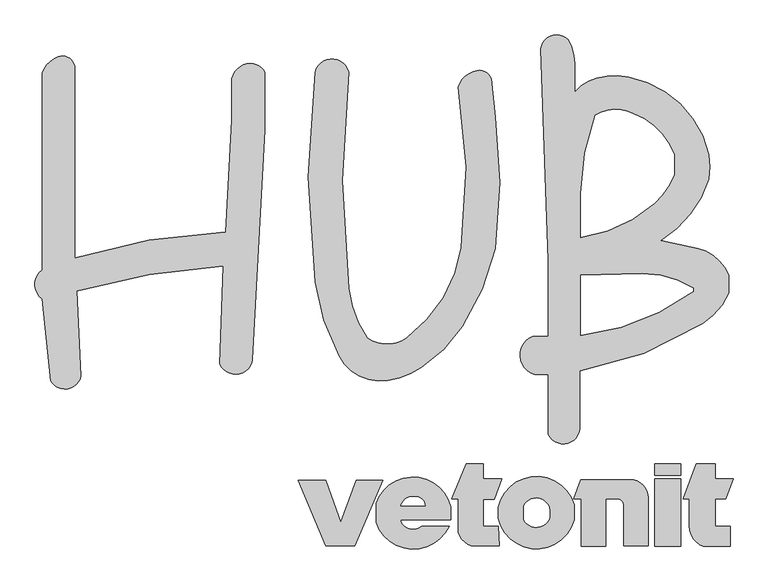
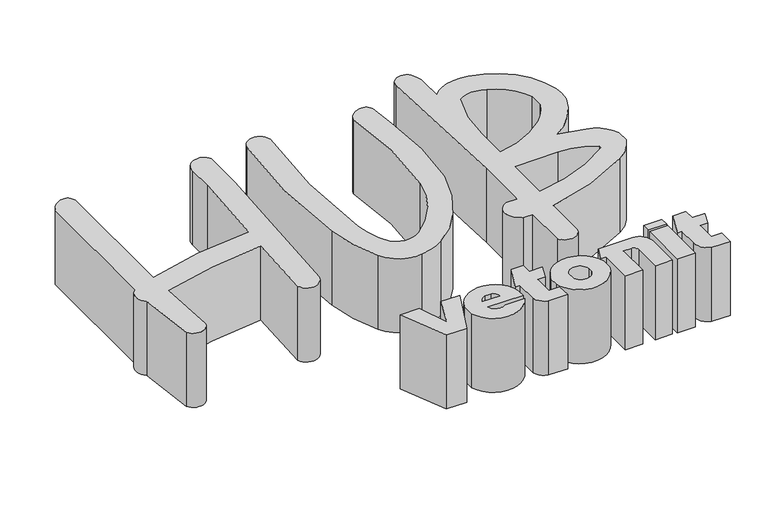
"""IFC4 building model written with IfcOpenShell, lengths in millimetres: proxy geometry, Семейство2 : Семейство1."""

from ifc_helpers import new_model, si_unit, point, frame_2d, origin, origin_with_axes, place, context, project, spatial, polyline, circle_curve, trimmed, segment, composite_curve, outline, extrude, source, transform, mapped, element, save


def generic_models_8337a1a4(model_context):
    return source(origin(), model_context, "Body", "SweptSolid", [
        extrude(outline(composite_curve([segment(polyline([(-3130.2138612, 578.0213904), (-3130.2138612, 2343.1073995)]), True, "CONTINUOUS"), segment(trimmed(circle_curve(frame_2d((-2901.2846318, 2259.7839742)), 243.6213974), [point((-3130.2138612, 2343.1073995))], [point((-2984.608057, 2488.7132036))], False, "CARTESIAN"), True, "CONTINUOUS"), segment(trimmed(circle_curve(frame_2d((-2947.0304021, 2385.4694451)), 109.869713), [point((-2984.608057, 2488.7132036))], [point((-2837.1606891, 2385.4694451))], False, "CARTESIAN"), True, "CONTINUOUS"), segment(polyline([(-2837.1606891, 2385.4694451), (-2837.1606891, 685.4694451)]), True, "CONTINUOUS"), segment(trimmed(circle_curve(frame_2d((-1279.1589173, -4388.2540336)), 5307.5455211), [point((-2837.1606891, 685.4694451))], [point((-1483.84279, 915.3432335))], False, "CARTESIAN"), True, "CONTINUOUS"), segment(polyline([(-1483.84279, 915.3432335), (-1431.2224406, 1919.3993131), (-1431.2224406, 2259.3993131)]), True, "CONTINUOUS"), segment(trimmed(circle_curve(frame_2d((-1261.5168131, 2259.3993131)), 169.7056275), [point((-1431.2224406, 2259.3993131))], [point((-1261.5168131, 2429.1049405))], False, "CARTESIAN"), True, "CONTINUOUS"), segment(trimmed(circle_curve(frame_2d((-1261.5168131, 2290.5462337)), 138.5587068), [point((-1261.5168131, 2429.1049405))], [point((-1136.3508721, 2349.9768862))], False, "CARTESIAN"), True, "CONTINUOUS"), segment(polyline([(-1136.3508721, 2349.9768862), (-1136.3508721, 1829.9768862), (-1244.162942, -227.1999554)]), True, "CONTINUOUS"), segment(trimmed(circle_curve(frame_2d((-1396.4760008, -204.8455372)), 153.944756), [point((-1244.162942, -227.1999554))], [point((-1537.7162561, -266.0842356))], False, "CARTESIAN"), True, "CONTINUOUS"), segment(polyline([(-1537.7162561, -266.0842356), (-1507.004699, 613.3796922)]), True, "CONTINUOUS"), segment(trimmed(circle_curve(frame_2d((-1093.2256848, -5688.4830107)), 6315.4324158), [point((-1507.004699, 613.3796922))], [point((-2821.4599022, 385.8805847))], True, "CARTESIAN"), True, "CONTINUOUS"), segment(polyline([(-2821.4599022, 385.8805847), (-2781.6845755, -373.0778618)]), True, "CONTINUOUS"), segment(trimmed(circle_curve(frame_2d((-2925.4914007, -345.8108897)), 146.3690225), [point((-2781.6845755, -373.0778618))], [point((-3052.8627984, -417.9248122))], False, "CARTESIAN"), True, "CONTINUOUS"), segment(polyline([(-3052.8627984, -417.9248122), (-3130.2138612, 318.0213904)]), True, "CONTINUOUS"), segment(trimmed(circle_curve(frame_2d((-3032.73765, 448.0213904)), 162.4857278), [point((-3130.2138612, 318.0213904))], [point((-3130.2138612, 578.0213904))], False, "CARTESIAN"), True, "CONTINUOUS")], self_intersect=False)), origin_with_axes(), (0.0, 0.0, 1.0), 1000.0),
        extrude(outline(composite_curve([segment(trimmed(circle_curve(frame_2d((6269.2057402, 1410.6522829)), 7014.6103864), [point((-682.1364951, 470.6522829))], [point((-682.1364951, 2350.6522829))], False, "CARTESIAN"), True, "CONTINUOUS"), segment(trimmed(circle_curve(frame_2d((-532.1364951, 2314.2445324)), 154.3551887), [point((-682.1364951, 2350.6522829))], [point((-382.1364951, 2350.6522829))], False, "CARTESIAN"), True, "CONTINUOUS"), segment(trimmed(circle_curve(frame_2d((7512.0839548, 1380.6522829)), 7953.5914223), [point((-382.1364951, 2350.6522829))], [point((-382.1364951, 410.6522829))], True, "CARTESIAN"), True, "CONTINUOUS"), segment(trimmed(circle_curve(frame_2d((613.0817813, 532.9394339)), 1002.703129), [point((-382.1364951, 410.6522829))], [point((-215.7754078, -31.3382682))], True, "CARTESIAN"), True, "CONTINUOUS"), segment(trimmed(circle_curve(frame_2d((-38.2754078, 209.8008224)), 299.4232974), [point((-215.7754078, -31.3382682))], [point((139.2245922, -31.3382682))], True, "CARTESIAN"), True, "CONTINUOUS"), segment(trimmed(circle_curve(frame_2d((-588.3146617, 957.0456984)), 1227.2800135), [point((139.2245922, -31.3382682))], [point((625.935573, 778.684831))], True, "CARTESIAN"), True, "CONTINUOUS"), segment(trimmed(circle_curve(frame_2d((-3755.7654397, 1422.3116315)), 4428.7198176), [point((625.935573, 778.684831))], [point((600.8041077, 2218.465512))], True, "CARTESIAN"), True, "CONTINUOUS"), segment(trimmed(circle_curve(frame_2d((804.7914051, 2155.2834418)), 213.5481011), [point((600.8041077, 2218.465512))], [point((770.6137632, 2366.0787935))], False, "CARTESIAN"), True, "CONTINUOUS"), segment(trimmed(circle_curve(frame_2d((788.5871749, 2255.2252818)), 112.3011335), [point((770.6137632, 2366.0787935))], [point((894.9030219, 2291.3982726))], False, "CARTESIAN"), True, "CONTINUOUS"), segment(polyline([(894.9030219, 2291.3982726), (930.9653417, 1948.2882187)]), True, "CONTINUOUS"), segment(trimmed(circle_curve(frame_2d((-3233.9961702, 1358.2882187)), 4206.5430457), [point((930.9653417, 1948.2882187))], [point((930.9653417, 768.2882187))], False, "CARTESIAN"), True, "CONTINUOUS"), segment(trimmed(circle_curve(frame_2d((-1200.5995464, 1260.2668894)), 2187.6041426), [point((930.9653417, 768.2882187))], [point((634.009684, 68.7045301))], False, "CARTESIAN"), True, "CONTINUOUS"), segment(trimmed(circle_curve(frame_2d((-415.023655, 750.042343)), 1250.8765573), [point((634.009684, 68.7045301))], [point((266.3141578, -298.9909961))], False, "CARTESIAN"), True, "CONTINUOUS"), segment(trimmed(circle_curve(frame_2d((-152.7390117, 346.2113358)), 769.3449213), [point((266.3141578, -298.9909961))], [point((-32.4315787, -413.66874))], False, "CARTESIAN"), True, "CONTINUOUS"), segment(trimmed(circle_curve(frame_2d((-97.9707254, 0.2864954)), 419.1113416), [point((-32.4315787, -413.66874))], [point((-468.5162538, -195.5459023))], False, "CARTESIAN"), True, "CONTINUOUS"), segment(trimmed(circle_curve(frame_2d((1298.9255987, 738.5427571)), 1999.0928757), [point((-468.5162538, -195.5459023))], [point((-682.1364951, 470.6522829))], False, "CARTESIAN"), True, "CONTINUOUS")], self_intersect=False)), origin_with_axes(), (0.0, 0.0, 1.0), 1000.0),
        extrude(outline(composite_curve([segment(polyline([(1406.8751314, 660.8082533), (1340.5660877, 2559.6508247)]), True, "CONTINUOUS"), segment(trimmed(circle_curve(frame_2d((1482.8590408, 2542.2359084)), 143.3546784), [point((1340.5660877, 2559.6508247))], [point((1586.8621296, 2640.8965456))], False, "CARTESIAN"), True, "CONTINUOUS"), segment(trimmed(circle_curve(frame_2d((1227.160119, 2433.2224929)), 415.3481053), [point((1586.8621296, 2640.8965456))], [point((1642.5082243, 2433.2224929))], False, "CARTESIAN"), True, "CONTINUOUS"), segment(polyline([(1642.5082243, 2433.2224929), (1642.5082243, 2173.2224929)]), True, "CONTINUOUS"), segment(trimmed(circle_curve(frame_2d((1944.550961, 1911.584962)), 399.6048203), [point((1642.5082243, 2173.2224929))], [point((1841.7995269, 2297.75352))], False, "CARTESIAN"), True, "CONTINUOUS"), segment(trimmed(circle_curve(frame_2d((2005.9267743, 1680.9175314)), 638.2980418), [point((1841.7995269, 2297.75352))], [point((2126.6259126, 2307.6998766))], False, "CARTESIAN"), True, "CONTINUOUS"), segment(trimmed(circle_curve(frame_2d((1953.4941279, 1408.6383955)), 915.5796862), [point((2126.6259126, 2307.6998766))], [point((2845.9657129, 1613.0415061))], False, "CARTESIAN"), True, "CONTINUOUS"), segment(trimmed(circle_curve(frame_2d((1956.9207871, 1503.0415061)), 895.8241346), [point((2845.9657129, 1613.0415061))], [point((2845.9657129, 1393.0415061))], False, "CARTESIAN"), True, "CONTINUOUS"), segment(trimmed(circle_curve(frame_2d((1897.303033, 1690.061647)), 994.0733596), [point((2845.9657129, 1393.0415061))], [point((2415.0026802, 841.4339786))], False, "CARTESIAN"), True, "CONTINUOUS"), segment(trimmed(circle_curve(frame_2d((1734.2287708, -3179.0102918)), 4077.6739996), [point((2415.0026802, 841.4339786))], [point((2747.5728644, 770.7440037))], False, "CARTESIAN"), True, "CONTINUOUS"), segment(trimmed(circle_curve(frame_2d((2646.3212025, 376.0911023)), 407.4344262), [point((2747.5728644, 770.7440037))], [point((3023.0418612, 531.2824581))], False, "CARTESIAN"), True, "CONTINUOUS"), segment(polyline([(3023.0418612, 531.2824581), (3023.0418612, 371.2824581)]), True, "CONTINUOUS"), segment(trimmed(circle_curve(frame_2d((2476.3489982, 595.0389258)), 590.7114721), [point((3023.0418612, 371.2824581))], [point((2791.6383217, 95.5064586))], False, "CARTESIAN"), True, "CONTINUOUS"), segment(trimmed(circle_curve(frame_2d((1178.7166442, 2650.9584983)), 3021.8953431), [point((2791.6383217, 95.5064586))], [point((1690.0134185, -327.3677219))], False, "CARTESIAN"), True, "CONTINUOUS"), segment(trimmed(circle_curve(frame_2d((-1259.2564309, -587.3677219)), 2960.7081322), [point((1690.0134185, -327.3677219))], [point((1690.0134185, -847.3677219))], False, "CARTESIAN"), True, "CONTINUOUS"), segment(trimmed(circle_curve(frame_2d((1541.3019032, -834.2576994)), 149.2882697), [point((1690.0134185, -847.3677219))], [point((1406.8751314, -899.1917467))], False, "CARTESIAN"), True, "CONTINUOUS"), segment(polyline([(1406.8751314, -899.1917467), (1406.8751314, -359.1917467), (1286.8751314, -359.1917467)]), True, "CONTINUOUS"), segment(trimmed(circle_curve(frame_2d((1332.2020869, -185.9372199)), 179.085633), [point((1286.8751314, -359.1917467))], [point((1266.8751314, -19.1917467))], False, "CARTESIAN"), True, "CONTINUOUS"), segment(polyline([(1266.8751314, -19.1917467), (1406.8751314, -19.1917467), (1406.8751314, 660.8082533)]), True, "CONTINUOUS")], self_intersect=False), holes=[composite_curve([segment(polyline([(1699.2270189, 0.0), (1699.2270189, -10.0)]), True, "CONTINUOUS"), segment(trimmed(circle_curve(frame_2d((1462.5751234, 2083.1014293)), 2106.4372084), [point((1699.2270189, -10.0))], [point((2706.0589722, 382.858614))], True, "CARTESIAN"), True, "CONTINUOUS"), segment(polyline([(2706.0589722, 382.858614), (2706.0589722, 412.858614)]), True, "CONTINUOUS"), segment(trimmed(circle_curve(frame_2d((2254.6020088, -299.9195422)), 843.7215713), [point((2706.0589722, 412.858614))], [point((2249.4596666, 543.7863581))], True, "CARTESIAN"), True, "CONTINUOUS"), segment(trimmed(circle_curve(frame_2d((2362.5065748, -18003.8598404)), 18547.9907027), [point((2249.4596666, 543.7863581))], [point((1699.2270189, 532.267569))], True, "CARTESIAN"), True, "CONTINUOUS"), segment(polyline([(1699.2270189, 532.267569), (1699.2270189, 0.0)]), True, "CONTINUOUS")], self_intersect=False), composite_curve([segment(polyline([(1699.2270189, 1267.0603914), (1699.2270189, 867.0603914)]), True, "CONTINUOUS"), segment(trimmed(circle_curve(frame_2d((1525.1851939, 2097.8633164)), 1243.0472223), [point((1699.2270189, 867.0603914))], [point((2356.1630064, 1173.3946733))], True, "CARTESIAN"), True, "CONTINUOUS"), segment(trimmed(circle_curve(frame_2d((1889.7910449, 1692.2367505)), 697.6388088), [point((2356.1630064, 1173.3946733))], [point((2536.5408417, 1430.674888))], True, "CARTESIAN"), True, "CONTINUOUS"), segment(polyline([(2536.5408417, 1430.674888), (2536.5408417, 1610.674888)]), True, "CONTINUOUS"), segment(trimmed(circle_curve(frame_2d((1952.2372738, 1394.0668464)), 623.1610571), [point((2536.5408417, 1610.674888))], [point((2168.8453155, 1978.3704142))], True, "CARTESIAN"), True, "CONTINUOUS"), segment(trimmed(circle_curve(frame_2d((2008.9206402, 1686.8835035)), 332.4763463), [point((2168.8453155, 1978.3704142))], [point((1829.0524343, 1966.5045853))], True, "CARTESIAN"), True, "CONTINUOUS"), segment(trimmed(circle_curve(frame_2d((3648.2938376, 1267.0603914)), 1949.0668187), [point((1829.0524343, 1966.5045853))], [point((1699.2270189, 1267.0603914))], True, "CARTESIAN"), True, "CONTINUOUS")], self_intersect=False)]), origin_with_axes(), (0.0, 0.0, 1.0), 1000.0),
        extrude(outline(polyline([(-585.8707671, -1898.4154009), (-835.9386893, -1309.2922947), (-589.4189595, -1309.2922947), (-452.6109022, -1685.169343), (-315.8028448, -1309.2922947), (-75.8028448, -1309.2922947), (-325.8707671, -1898.4154009), (-585.8707671, -1898.4154009)])), origin_with_axes(), (0.0, 0.0, 1.0), 1000.0),
        extrude(outline(composite_curve([segment(polyline([(533.4112053, -1663.6098671), (83.4112053, -1663.6098671)]), True, "CONTINUOUS"), segment(trimmed(circle_curve(frame_2d((166.5420604, -1655.3105504)), 83.5441064), [point((83.4112053, -1663.6098671))], [point((117.2149106, -1722.7379188))], True, "CARTESIAN"), True, "CONTINUOUS"), segment(trimmed(circle_curve(frame_2d((194.7149106, -1616.7998892)), 131.2597277), [point((117.2149106, -1722.7379188))], [point((272.2149106, -1722.7379188))], True, "CARTESIAN"), True, "CONTINUOUS"), segment(polyline([(272.2149106, -1722.7379188), (517.2149106, -1722.7379188)]), True, "CONTINUOUS"), segment(trimmed(circle_curve(frame_2d((197.3016037, -1574.9706452)), 352.391389), [point((517.2149106, -1722.7379188))], [point((-136.3542114, -1688.34387))], False, "CARTESIAN"), True, "CONTINUOUS"), segment(polyline([(-136.3542114, -1688.34387), (-136.3542114, -1518.34387)]), True, "CONTINUOUS"), segment(trimmed(circle_curve(frame_2d((194.1529462, -1630.3047561)), 348.9559016), [point((-136.3542114, -1518.34387))], [point((533.4112053, -1548.6098671))], False, "CARTESIAN"), True, "CONTINUOUS"), segment(polyline([(533.4112053, -1548.6098671), (533.4112053, -1663.6098671)]), True, "CONTINUOUS")], self_intersect=False), holes=[composite_curve([segment(trimmed(circle_curve(frame_2d((207.7630273, -1550.0294607)), 97.8591895), [point((305.0292495, -1539.2729277))], [point((241.3885526, -1458.128726))], True, "CARTESIAN"), True, "CONTINUOUS"), segment(polyline([(241.3885526, -1458.128726), (161.3885526, -1458.128726)]), True, "CONTINUOUS"), segment(trimmed(circle_curve(frame_2d((208.578585, -1581.46296)), 132.0538997), [point((161.3885526, -1458.128726))], [point((83.4457212, -1539.2729277))], True, "CARTESIAN"), True, "CONTINUOUS"), segment(polyline([(83.4457212, -1539.2729277), (305.0292495, -1539.2729277)]), True, "CONTINUOUS")], self_intersect=False)]), origin_with_axes(), (0.0, 0.0, 1.0), 1000.0),
        extrude(outline(composite_curve([segment(polyline([(600.1755611, -1475.2040441), (540.1755611, -1475.2040441), (673.0241448, -1162.2323939), (823.0241448, -1162.2323939), (823.0241448, -1297.2323939), (988.0241448, -1297.2323939), (921.3302169, -1480.472455), (823.0241448, -1480.472455), (823.0241448, -1722.7379188), (958.0241448, -1722.7379188), (967.1829372, -1897.4980874), (717.1829372, -1897.4980874)]), True, "CONTINUOUS"), segment(trimmed(circle_curve(frame_2d((772.4882801, -1727.4619022)), 178.804321), [point((717.1829372, -1897.4980874))], [point((600.1755611, -1775.2040441))], False, "CARTESIAN"), True, "CONTINUOUS"), segment(polyline([(600.1755611, -1775.2040441), (600.1755611, -1475.2040441)]), True, "CONTINUOUS")], self_intersect=False)), origin_with_axes(), (0.0, 0.0, 1.0), 1000.0),
        extrude(outline(composite_curve([segment(trimmed(circle_curve(frame_2d((1301.7769251, -1625.3587012)), 349.5539697), [point((960.310508, -1550.6013359))], [point((1637.6936748, -1528.674085))], False, "CARTESIAN"), True, "CONTINUOUS"), segment(polyline([(1637.6936748, -1528.674085), (1637.6936748, -1663.674085)]), True, "CONTINUOUS"), segment(trimmed(circle_curve(frame_2d((1300.5519429, -1576.8299394)), 348.1471714), [point((1637.6936748, -1663.674085))], [point((960.310508, -1650.6013359))], False, "CARTESIAN"), True, "CONTINUOUS"), segment(polyline([(960.310508, -1650.6013359), (960.310508, -1550.6013359)]), True, "CONTINUOUS")], self_intersect=False), holes=[composite_curve([segment(polyline([(1185.4196754, -1545.2648866), (1185.4196754, -1660.2648866)]), True, "CONTINUOUS"), segment(trimmed(circle_curve(frame_2d((1299.4285633, -1608.1816772)), 125.3422803), [point((1185.4196754, -1660.2648866))], [point((1419.5250192, -1644.0638248))], True, "CARTESIAN"), True, "CONTINUOUS"), segment(polyline([(1419.5250192, -1644.0638248), (1419.5250192, -1579.0638248)]), True, "CONTINUOUS"), segment(trimmed(circle_curve(frame_2d((1298.4724467, -1589.8693124)), 121.5338796), [point((1419.5250192, -1579.0638248))], [point((1185.4196754, -1545.2648866))], True, "CARTESIAN"), True, "CONTINUOUS")], self_intersect=False)]), origin_with_axes(), (0.0, 0.0, 1.0), 1000.0),
        extrude(outline(composite_curve([segment(polyline([(1702.6386382, -1476.9946465), (1634.077605, -1476.9946465), (1698.8843227, -1304.3753819), (2141.3485834, -1304.3753819)]), True, "CONTINUOUS"), segment(trimmed(circle_curve(frame_2d((2141.3485834, -1465.6654366)), 161.2900547), [point((2141.3485834, -1304.3753819))], [point((2302.6386382, -1465.6654366))], False, "CARTESIAN"), True, "CONTINUOUS"), segment(polyline([(2302.6386382, -1465.6654366), (2302.6386382, -1897.4980874), (2082.6386382, -1897.4980874), (2082.6386382, -1535.5173601)]), True, "CONTINUOUS"), segment(trimmed(circle_curve(frame_2d((2024.1159245, -1535.5173601)), 58.5227137), [point((2082.6386382, -1535.5173601))], [point((2024.1159245, -1476.9946465))], True, "CARTESIAN"), True, "CONTINUOUS"), segment(polyline([(2024.1159245, -1476.9946465), (1922.6386382, -1476.9946465), (1922.6386382, -1901.9946465), (1702.6386382, -1901.9946465), (1702.6386382, -1476.9946465)]), True, "CONTINUOUS")], self_intersect=False)), origin_with_axes(), (0.0, 0.0, 1.0), 1000.0),
        extrude(outline(polyline([(2595.3346397, -1296.7685802), (2595.3346397, -1903.8056625), (2362.0425544, -1903.8056625), (2362.0425544, -1296.7685802), (2595.3346397, -1296.7685802)])), origin_with_axes(), (0.0, 0.0, 1.0), 1000.0),
        extrude(outline(polyline([(2595.3346397, -1160.8586022), (2595.3346397, -1265.1934405), (2362.0425544, -1265.1934405), (2362.0425544, -1160.8586022), (2595.3346397, -1160.8586022)])), origin_with_axes(), (0.0, 0.0, 1.0), 1000.0),
        extrude(outline(composite_curve([segment(polyline([(2902.8984512, -1721.4440043), (3037.8984512, -1721.4440043), (3037.8984512, -1903.8056625), (2797.8984512, -1903.8056625)]), True, "CONTINUOUS"), segment(trimmed(circle_curve(frame_2d((2864.4661094, -1721.4440043)), 194.1314697), [point((2797.8984512, -1903.8056625))], [point((2670.3346397, -1721.4440043))], False, "CARTESIAN"), True, "CONTINUOUS"), segment(polyline([(2670.3346397, -1721.4440043), (2670.3346397, -1476.4440043), (2618.0347585, -1476.4440043), (2732.8984512, -1160.8586022), (2902.8984512, -1160.8586022), (2902.8984512, -1296.7685802), (3063.2949574, -1296.7685802), (2997.8984512, -1476.4440043), (2902.8984512, -1476.4440043), (2902.8984512, -1721.4440043)]), True, "CONTINUOUS")], self_intersect=False)), origin_with_axes(), (0.0, 0.0, 1.0), 1000.0),
    ])


if __name__ == "__main__":
    model = new_model("IFC4")
    model_context = context("Model", 3, world=origin())
    ifc_project = project(units=[si_unit("LENGTHUNIT", "METRE", prefix="MILLI")], contexts=[model_context])
    site = spatial("IfcSite", under=ifc_project)
    building = spatial("IfcBuilding", under=site)
    placement = place(None, origin())
    generic_models_shape = generic_models_8337a1a4(model_context)
    element("IfcBuildingElementProxy", 1, Name="Семейство2 : Семейство1", ObjectType="Семейство2 : Семейство1", at=placement, inside=building, context=model_context, shape_type="MappedRepresentation", body=[
        mapped(generic_models_shape, transform((0.0, 0.0, 0.0), x_axis=(1.0, 0.0, 0.0), y_axis=(0.0, 1.0, 0.0), z_axis=(0.0, 0.0, 1.0))),
    ])
    save(model, "model.ifc")
